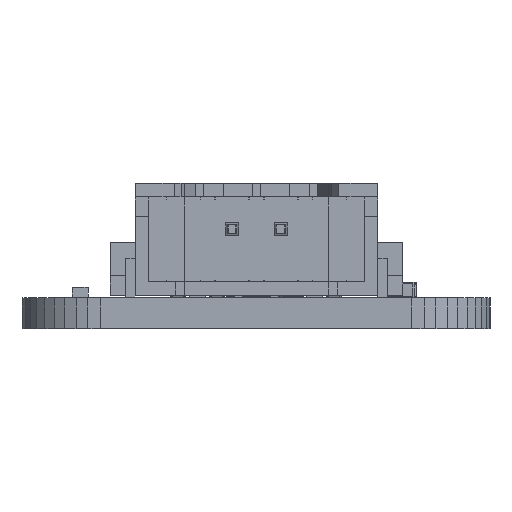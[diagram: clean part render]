
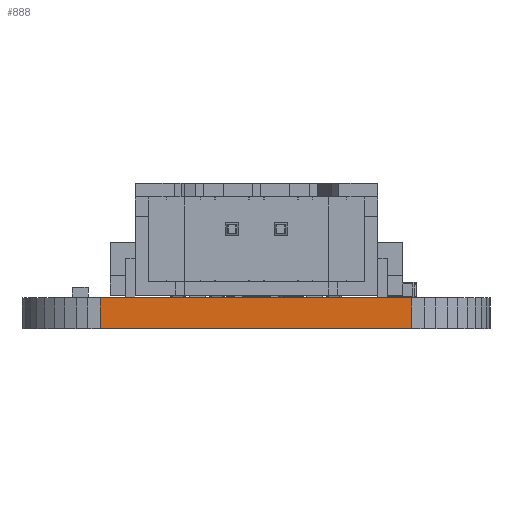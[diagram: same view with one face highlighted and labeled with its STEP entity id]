
A CAD part, front view. The second image highlights one B-rep face of the part: STEP entity #888.
In plain terms, the highlighted planar face has unit normal (-0.001, -1, 0).
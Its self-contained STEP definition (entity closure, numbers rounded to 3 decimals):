
#139 = PLANE('',#140);
#140 = AXIS2_PLACEMENT_3D('',#141,#142,#143);
#141 = CARTESIAN_POINT('',(-12.012,-7.,1.59));
#142 = DIRECTION('',(0.,0.,-1.));
#143 = DIRECTION('',(-1.,0.,0.));
#193 = PLANE('',#194);
#194 = AXIS2_PLACEMENT_3D('',#195,#196,#197);
#195 = CARTESIAN_POINT('',(-12.012,-7.,0.));
#196 = DIRECTION('',(0.,0.,-1.));
#197 = DIRECTION('',(-1.,0.,0.));
#780 = PLANE('',#781);
#781 = AXIS2_PLACEMENT_3D('',#782,#783,#784);
#782 = CARTESIAN_POINT('',(-8.628,-10.963,0.));
#783 = DIRECTION('',(0.059,0.998,0.));
#784 = DIRECTION('',(0.998,-0.059,0.));
#818 = VERTEX_POINT('',#819);
#819 = CARTESIAN_POINT('',(-8.,-11.,1.59));
#840 = EDGE_CURVE('',#841,#818,#843,.T.);
#841 = VERTEX_POINT('',#842);
#842 = CARTESIAN_POINT('',(-8.,-11.,0.));
#843 = SURFACE_CURVE('',#844,(#848,#855),.PCURVE_S1.);
#844 = LINE('',#845,#846);
#845 = CARTESIAN_POINT('',(-8.,-11.,0.));
#846 = VECTOR('',#847,1.);
#847 = DIRECTION('',(0.,0.,1.));
#848 = PCURVE('',#780,#849);
#849 = DEFINITIONAL_REPRESENTATION('',(#850),#854);
#850 = LINE('',#851,#852);
#851 = CARTESIAN_POINT('',(0.629,0.));
#852 = VECTOR('',#853,1.);
#853 = DIRECTION('',(0.,-1.));
#854 = ( GEOMETRIC_REPRESENTATION_CONTEXT(2) 
PARAMETRIC_REPRESENTATION_CONTEXT() REPRESENTATION_CONTEXT('2D SPACE',''
  ) );
#855 = PCURVE('',#856,#861);
#856 = PLANE('',#857);
#857 = AXIS2_PLACEMENT_3D('',#858,#859,#860);
#858 = CARTESIAN_POINT('',(-8.,-11.,0.));
#859 = DIRECTION('',(0.001,1.,0.));
#860 = DIRECTION('',(1.,-0.001,0.));
#861 = DEFINITIONAL_REPRESENTATION('',(#862),#866);
#862 = LINE('',#863,#864);
#863 = CARTESIAN_POINT('',(0.,0.));
#864 = VECTOR('',#865,1.);
#865 = DIRECTION('',(0.,-1.));
#866 = ( GEOMETRIC_REPRESENTATION_CONTEXT(2) 
PARAMETRIC_REPRESENTATION_CONTEXT() REPRESENTATION_CONTEXT('2D SPACE',''
  ) );
#888 = ADVANCED_FACE('',(#889),#856,.F.);
#889 = FACE_BOUND('',#890,.F.);
#890 = EDGE_LOOP('',(#891,#892,#915,#943));
#891 = ORIENTED_EDGE('',*,*,#840,.T.);
#892 = ORIENTED_EDGE('',*,*,#893,.T.);
#893 = EDGE_CURVE('',#818,#894,#896,.T.);
#894 = VERTEX_POINT('',#895);
#895 = CARTESIAN_POINT('',(8.,-11.012,1.59));
#896 = SURFACE_CURVE('',#897,(#901,#908),.PCURVE_S1.);
#897 = LINE('',#898,#899);
#898 = CARTESIAN_POINT('',(-8.,-11.,1.59));
#899 = VECTOR('',#900,1.);
#900 = DIRECTION('',(1.,-0.001,0.));
#901 = PCURVE('',#856,#902);
#902 = DEFINITIONAL_REPRESENTATION('',(#903),#907);
#903 = LINE('',#904,#905);
#904 = CARTESIAN_POINT('',(0.,-1.59));
#905 = VECTOR('',#906,1.);
#906 = DIRECTION('',(1.,0.));
#907 = ( GEOMETRIC_REPRESENTATION_CONTEXT(2) 
PARAMETRIC_REPRESENTATION_CONTEXT() REPRESENTATION_CONTEXT('2D SPACE',''
  ) );
#908 = PCURVE('',#139,#909);
#909 = DEFINITIONAL_REPRESENTATION('',(#910),#914);
#910 = LINE('',#911,#912);
#911 = CARTESIAN_POINT('',(-4.012,-4.));
#912 = VECTOR('',#913,1.);
#913 = DIRECTION('',(-1.,-0.001));
#914 = ( GEOMETRIC_REPRESENTATION_CONTEXT(2) 
PARAMETRIC_REPRESENTATION_CONTEXT() REPRESENTATION_CONTEXT('2D SPACE',''
  ) );
#915 = ORIENTED_EDGE('',*,*,#916,.F.);
#916 = EDGE_CURVE('',#917,#894,#919,.T.);
#917 = VERTEX_POINT('',#918);
#918 = CARTESIAN_POINT('',(8.,-11.012,0.));
#919 = SURFACE_CURVE('',#920,(#924,#931),.PCURVE_S1.);
#920 = LINE('',#921,#922);
#921 = CARTESIAN_POINT('',(8.,-11.012,0.));
#922 = VECTOR('',#923,1.);
#923 = DIRECTION('',(0.,0.,1.));
#924 = PCURVE('',#856,#925);
#925 = DEFINITIONAL_REPRESENTATION('',(#926),#930);
#926 = LINE('',#927,#928);
#927 = CARTESIAN_POINT('',(16.,0.));
#928 = VECTOR('',#929,1.);
#929 = DIRECTION('',(0.,-1.));
#930 = ( GEOMETRIC_REPRESENTATION_CONTEXT(2) 
PARAMETRIC_REPRESENTATION_CONTEXT() REPRESENTATION_CONTEXT('2D SPACE',''
  ) );
#931 = PCURVE('',#932,#937);
#932 = PLANE('',#933);
#933 = AXIS2_PLACEMENT_3D('',#934,#935,#936);
#934 = CARTESIAN_POINT('',(8.,-11.012,0.));
#935 = DIRECTION('',(-0.078,0.997,0.));
#936 = DIRECTION('',(0.997,0.078,0.));
#937 = DEFINITIONAL_REPRESENTATION('',(#938),#942);
#938 = LINE('',#939,#940);
#939 = CARTESIAN_POINT('',(0.,0.));
#940 = VECTOR('',#941,1.);
#941 = DIRECTION('',(0.,-1.));
#942 = ( GEOMETRIC_REPRESENTATION_CONTEXT(2) 
PARAMETRIC_REPRESENTATION_CONTEXT() REPRESENTATION_CONTEXT('2D SPACE',''
  ) );
#943 = ORIENTED_EDGE('',*,*,#944,.F.);
#944 = EDGE_CURVE('',#841,#917,#945,.T.);
#945 = SURFACE_CURVE('',#946,(#950,#957),.PCURVE_S1.);
#946 = LINE('',#947,#948);
#947 = CARTESIAN_POINT('',(-8.,-11.,0.));
#948 = VECTOR('',#949,1.);
#949 = DIRECTION('',(1.,-0.001,0.));
#950 = PCURVE('',#856,#951);
#951 = DEFINITIONAL_REPRESENTATION('',(#952),#956);
#952 = LINE('',#953,#954);
#953 = CARTESIAN_POINT('',(0.,0.));
#954 = VECTOR('',#955,1.);
#955 = DIRECTION('',(1.,0.));
#956 = ( GEOMETRIC_REPRESENTATION_CONTEXT(2) 
PARAMETRIC_REPRESENTATION_CONTEXT() REPRESENTATION_CONTEXT('2D SPACE',''
  ) );
#957 = PCURVE('',#193,#958);
#958 = DEFINITIONAL_REPRESENTATION('',(#959),#963);
#959 = LINE('',#960,#961);
#960 = CARTESIAN_POINT('',(-4.012,-4.));
#961 = VECTOR('',#962,1.);
#962 = DIRECTION('',(-1.,-0.001));
#963 = ( GEOMETRIC_REPRESENTATION_CONTEXT(2) 
PARAMETRIC_REPRESENTATION_CONTEXT() REPRESENTATION_CONTEXT('2D SPACE',''
  ) );
